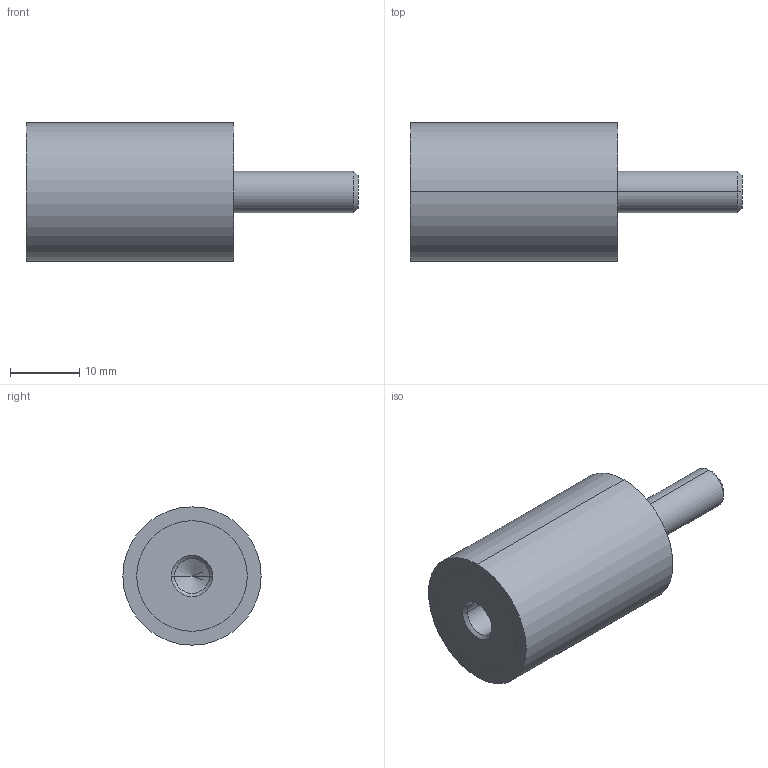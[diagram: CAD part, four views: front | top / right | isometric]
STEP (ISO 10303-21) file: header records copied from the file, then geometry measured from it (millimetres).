
FILE_DESCRIPTION (( 'STEP AP214' ), '1' );
FILE_NAME ('351-20-30-M6-ES-40.step', '2025-07-23T09:57:59', ( '' ), ( '' ), 'SwSTEP 2.0', 'SolidWorks 2022', '' );
FILE_SCHEMA (( 'AUTOMOTIVE_DESIGN' ));
Length unit declared in the file: millimetre
Products named in the file (1): 351-20-30-M6-ES-40
Bounding box: 48 x 20 x 20 mm (x, y, z)
Volume: 9778 mm3; surface area: 2954.4 mm2
Topology: 1 solids, 1 shells, 24 faces, 48 edges, 29 vertices
Faces by surface type: cylinder 12, cone 6, plane 6
Entity records: 740 total; most frequent: DIRECTION 124, CARTESIAN_POINT 100, ORIENTED_EDGE 92, AXIS2_PLACEMENT_3D 53, EDGE_CURVE 46, EDGE_LOOP 29, VERTEX_POINT 29, CIRCLE 28
